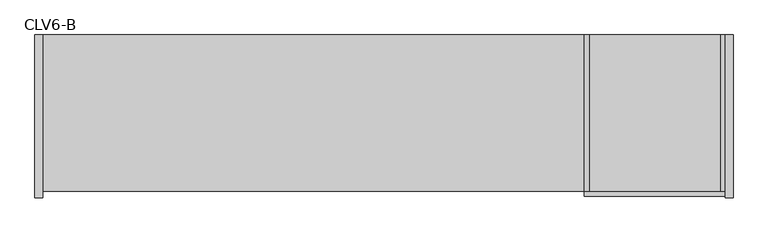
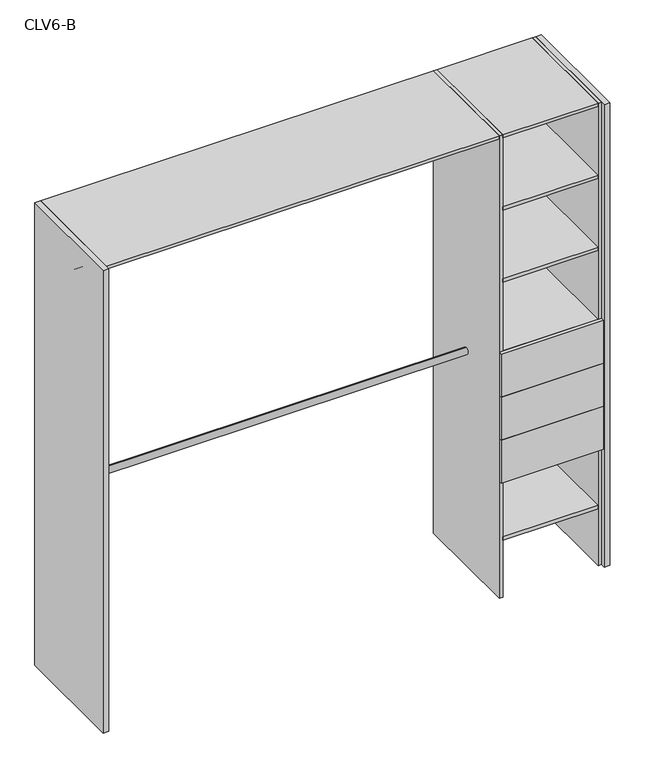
"""IFC4 building model written with IfcOpenShell, lengths in millimetres: furniture geometry, Closet 1estantes-1tubos_2 laterales : CLV6-B."""

from ifc_helpers import new_model, si_unit, point, frame, frame_2d, origin, origin_with_axes, place, context, project, spatial, polyline, circle_curve, trimmed, segment, composite_curve, outline, extrude, source, transform, mapped, element, save


def clv6_b_3ee2a1dc(model_context):
    return source(origin(), model_context, "Body", "SweptSolid", [
        extrude(outline(polyline([(-1954.8910614, 80.0), (-1979.8910614, 80.0), (-1979.8910614, 600.0), (-1954.8910614, 600.0), (-1954.8910614, 80.0)])), origin_with_axes(), (0.0, 0.0, 1.0), 2150.0),
        extrude(outline(polyline([(250.0, 80.0), (225.0, 80.0), (225.0, 600.0), (250.0, 600.0), (250.0, 80.0)])), origin_with_axes(), (0.0, 0.0, 1.0), 2150.0),
        extrude(outline(polyline([(225.0, 100.0), (210.0, 100.0), (210.0, 600.0), (225.0, 600.0), (225.0, 100.0)])), origin_with_axes(), (0.0, 0.0, 1.0), 2150.0),
        extrude(outline(polyline([(-210.0, 100.0), (-225.0, 100.0), (-225.0, 600.0), (-210.0, 600.0), (-210.0, 100.0)])), origin_with_axes(), (0.0, 0.0, 1.0), 2150.0),
        extrude(outline(polyline([(225.0, 100.0), (225.0, 85.0), (-225.0, 85.0), (-225.0, 100.0), (225.0, 100.0)])), frame((0.0, 0.0, 945.0), z_axis=(0.0, 0.0, 1.0), x_axis=(1.0, 0.0, 0.0)), (0.0, 0.0, 1.0), 200.0),
        extrude(outline(polyline([(225.0, 100.0), (225.0, 85.0), (-225.0, 85.0), (-225.0, 100.0), (225.0, 100.0)])), frame((0.0, 0.0, 745.0), z_axis=(0.0, 0.0, 1.0), x_axis=(1.0, 0.0, 0.0)), (0.0, 0.0, 1.0), 200.0),
        extrude(outline(polyline([(225.0, 100.0), (225.0, 85.0), (-225.0, 85.0), (-225.0, 100.0), (225.0, 100.0)])), frame((0.0, 0.0, 545.0), z_axis=(0.0, 0.0, 1.0), x_axis=(1.0, 0.0, 0.0)), (0.0, 0.0, 1.0), 200.0),
        extrude(outline(polyline([(210.0, 100.0), (-210.0, 100.0), (-210.0, 600.0), (210.0, 600.0), (210.0, 100.0)])), frame((0.0, 0.0, 1130.0), z_axis=(0.0, 0.0, 1.0), x_axis=(1.0, 0.0, 0.0)), (0.0, 0.0, 1.0), 15.0),
        extrude(outline(composite_curve([segment(trimmed(circle_curve(frame_2d((350.0, 1000.0)), 15.0), [point((350.0, 1015.0))], [point((350.0, 985.0))], False, "CARTESIAN"), True, "CONTINUOUS"), segment(trimmed(circle_curve(frame_2d((350.0, 1000.0)), 15.0), [point((350.0, 985.0))], [point((350.0, 1015.0))], False, "CARTESIAN"), True, "CONTINUOUS")], self_intersect=False)), frame((-1954.8910614, 0.0, 0.0), z_axis=(1.0, 0.0, 0.0), x_axis=(0.0, 1.0, 0.0)), (0.0, 0.0, 1.0), 1729.8910614),
        extrude(outline(composite_curve([segment(trimmed(circle_curve(frame_2d((350.0, 2000.0)), 15.0), [point((350.0, 2015.0))], [point((350.0, 1985.0))], False, "CARTESIAN"), True, "CONTINUOUS"), segment(trimmed(circle_curve(frame_2d((350.0, 2000.0)), 15.0), [point((350.0, 1985.0))], [point((350.0, 2015.0))], False, "CARTESIAN"), True, "CONTINUOUS")], self_intersect=False)), frame((-1954.8910614, 0.0, 0.0), z_axis=(1.0, 0.0, 0.0), x_axis=(0.0, 1.0, 0.0)), (0.0, 0.0, 1.0), 1729.8910614),
        extrude(outline(polyline([(210.0, 100.0), (-210.0, 100.0), (-210.0, 600.0), (210.0, 600.0), (210.0, 100.0)])), frame((0.0, 0.0, 265.0), z_axis=(0.0, 0.0, 1.0), x_axis=(1.0, 0.0, 0.0)), (0.0, 0.0, 1.0), 15.0),
        extrude(outline(polyline([(210.0, 100.0), (-210.0, 100.0), (-210.0, 600.0), (210.0, 600.0), (210.0, 100.0)])), frame((0.0, 0.0, 545.0), z_axis=(0.0, 0.0, 1.0), x_axis=(1.0, 0.0, 0.0)), (0.0, 0.0, 1.0), 15.0),
        extrude(outline(polyline([(210.0, 100.0), (-210.0, 100.0), (-210.0, 600.0), (210.0, 600.0), (210.0, 100.0)])), frame((0.0, 0.0, 1465.0), z_axis=(0.0, 0.0, 1.0), x_axis=(1.0, 0.0, 0.0)), (0.0, 0.0, 1.0), 15.0),
        extrude(outline(polyline([(210.0, 100.0), (-210.0, 100.0), (-210.0, 600.0), (210.0, 600.0), (210.0, 100.0)])), frame((0.0, 0.0, 1800.0), z_axis=(0.0, 0.0, 1.0), x_axis=(1.0, 0.0, 0.0)), (0.0, 0.0, 1.0), 15.0),
        extrude(outline(polyline([(-210.0, 100.0), (-1954.8910614, 100.0), (-1954.8910614, 600.0), (-210.0, 600.0), (-210.0, 100.0)])), frame((0.0, 0.0, 2135.0), z_axis=(0.0, 0.0, 1.0), x_axis=(1.0, 0.0, 0.0)), (0.0, 0.0, 1.0), 15.0),
        extrude(outline(polyline([(210.0, 100.0), (-210.0, 100.0), (-210.0, 600.0), (210.0, 600.0), (210.0, 100.0)])), frame((0.0, 0.0, 2135.0), z_axis=(0.0, 0.0, 1.0), x_axis=(1.0, 0.0, 0.0)), (0.0, 0.0, 1.0), 15.0),
    ])


if __name__ == "__main__":
    model = new_model("IFC4")
    model_context = context("Model", 3, world=origin())
    ifc_project = project(units=[si_unit("LENGTHUNIT", "METRE", prefix="MILLI")], contexts=[model_context])
    site = spatial("IfcSite", under=ifc_project)
    building = spatial("IfcBuilding", under=site)
    placement = place(None, origin())
    clv6_b_shape = clv6_b_3ee2a1dc(model_context)
    element("IfcFurniture", 1, ObjectType="Closet 1estantes-1tubos_2 laterales : CLV6-B", at=placement, inside=building, context=model_context, shape_type="MappedRepresentation", body=[
        mapped(clv6_b_shape, transform((0.0, 0.0, 0.0), x_axis=(1.0, 0.0, 0.0), y_axis=(0.0, 1.0, 0.0), z_axis=(0.0, 0.0, 1.0))),
    ])
    save(model, "model.ifc")
